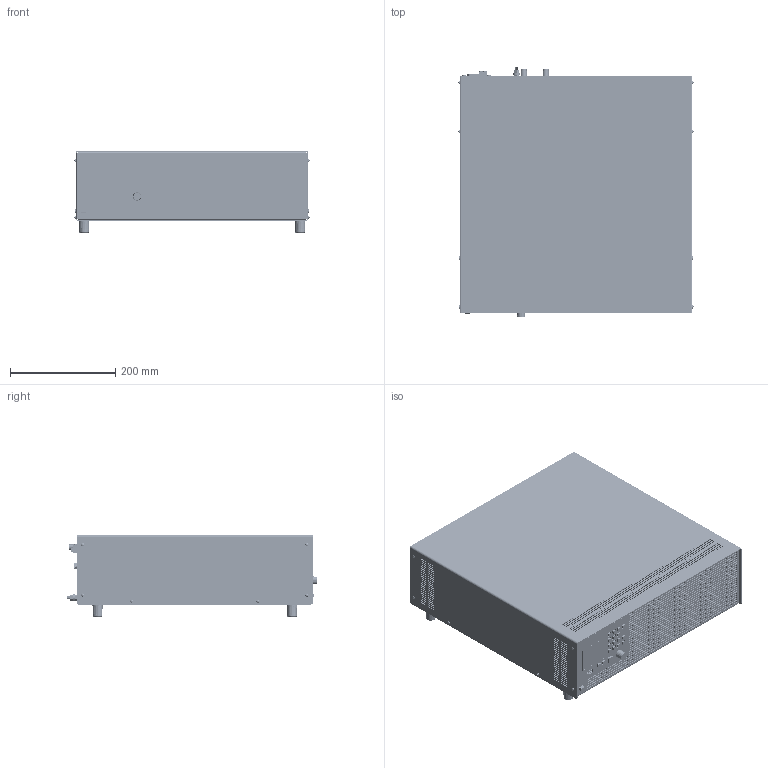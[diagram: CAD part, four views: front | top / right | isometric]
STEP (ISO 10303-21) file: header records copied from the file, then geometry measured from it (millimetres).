
FILE_DESCRIPTION(('STEP AP214'),'1');
FILE_NAME('PLI_M15_19Z_3HE_SBU4_32_BRB_3D_01.step','2020-04-14T12:22:21',(' '),(' '),'Spatial InterOp 3D',' ',' ');
FILE_SCHEMA(('AUTOMOTIVE_DESIGN { 1 0 10303 214 1 1 1 1 }'));
Length unit declared in the file: millimetre
Products named in the file (21): 1679_PLI-3HE Bodenplatte_3D_02; 1678_PLI-3HE Frontplatte_3D_01_mit_Bedienelementen_BRB; PEM_M3_; PLI_3HE_Frontplatteneinbauten_nur_für_3D_Modellkonstruktion_3D; 1678_PLI-3HE Frontplatte_3D_01; AutoCreatedBlock_3086; AutoCreatedBlock_3080; 1680_PLI-3HE Deckel_3D_02; DIN 7985-AxM3 X 0.5x4; Rückwand_mit_SBU4_32_3D_01; 1F840730; *U177; *U178; *U179; 1E5E0040; 3xM2.5_5x5x12; 1677_PLI-3HE Rückwand_3D_04; AutoCreatedBlock_3106; AutoCreatedBlock_3092; AutoCreatedBlock_3074
Assembly tree (98 placements, depth 4):
  (unnamed)
    1679_PLI-3HE Bodenplatte_3D_02
    1678_PLI-3HE Frontplatte_3D_01_mit_Bedienelementen_BRB
      PEM_M3_  x12
      PLI_3HE_Frontplatteneinbauten_nur_für_3D_Modellkonstruktion_3D
      1678_PLI-3HE Frontplatte_3D_01
        PEM_M3_  x12
        AutoCreatedBlock_3086
      AutoCreatedBlock_3080
    1680_PLI-3HE Deckel_3D_02
    DIN 7985-AxM3 X 0.5x4  x12
    PEM_M3_  x20
    Rückwand_mit_SBU4_32_3D_01
      1F840730
      *U177
      *U178  x2
      *U179  x3
      1E5E0040
      3xM2.5_5x5x12  x2
      PEM_M3_  x12
      1677_PLI-3HE Rückwand_3D_04
        PEM_M3_  x8
        AutoCreatedBlock_3106
      AutoCreatedBlock_3092
    AutoCreatedBlock_3074
Bounding box: 446.98 x 477.25 x 154.99 mm (x, y, z)
Volume: 23253832.4 mm3; surface area: 1948880.9 mm2
Topology: 175 solids, 1723 shells, 13208 faces, 39666 edges, 28828 vertices
Faces by surface type: plane 7564, cone 2788, cylinder 2257, torus 256, bspline 205, sphere 136, extrusion 2
Entity records: 484858 total; most frequent: CARTESIAN_POINT 97801, DIRECTION 59386, ORIENTED_EDGE 56570, EDGE_CURVE 32921, VECTOR 26646, LINE 26644, VERTEX_POINT 24534, AXIS2_PLACEMENT_3D 16370
